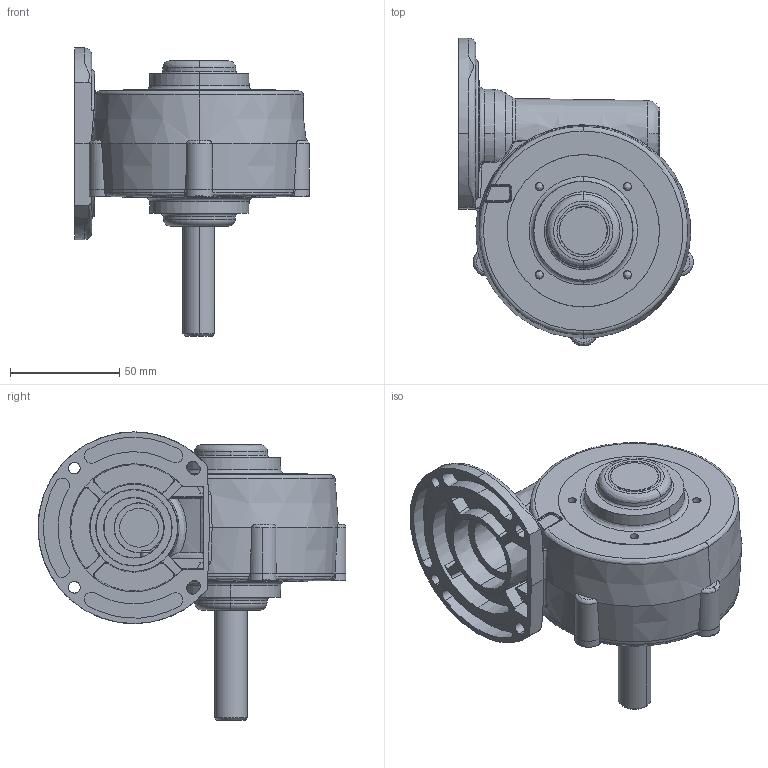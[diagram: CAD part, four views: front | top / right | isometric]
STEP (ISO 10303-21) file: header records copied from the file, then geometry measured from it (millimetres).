
FILE_DESCRIPTION (( 'STEP AP214' ), '1' );
FILE_NAME ('LBOX.STEP', '2023-10-24T11:09:14', ( '' ), ( '' ), 'SwSTEP 2.0', 'SolidWorks 2023', '' );
FILE_SCHEMA (( 'AUTOMOTIVE_DESIGN' ));
Length unit declared in the file: millimetre
Products named in the file (1): LBOX
Bounding box: 107.61 x 141.12 x 132.11 mm (x, y, z)
Volume: 182031.5 mm3; surface area: 111393.6 mm2
Topology: 15 solids, 15 shells, 1523 faces, 3927 edges, 2391 vertices
Faces by surface type: bspline 467, plane 324, cylinder 296, cone 290, torus 86, sphere 60
Entity records: 99199 total; most frequent: CARTESIAN_POINT 49691, ORIENTED_EDGE 7534, DIRECTION 5704, EDGE_CURVE 3767, AXIS2_PLACEMENT_3D 2476, VERTEX_POINT 2367, EDGE_LOOP 1662, B_SPLINE_CURVE_WITH_KNOTS 1560
